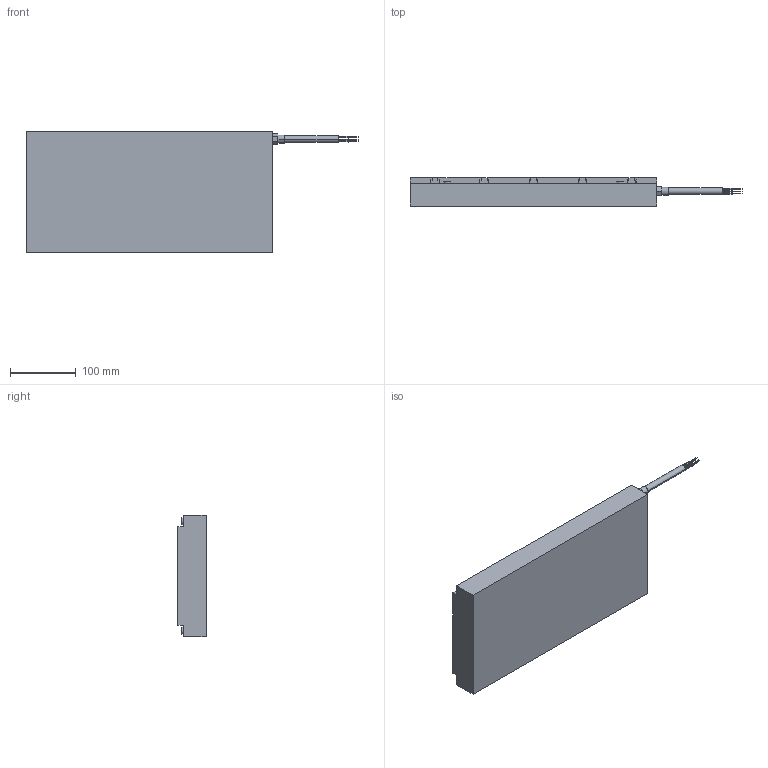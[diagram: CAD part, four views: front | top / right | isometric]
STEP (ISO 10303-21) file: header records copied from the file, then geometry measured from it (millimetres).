
FILE_DESCRIPTION((''),'2;1');
FILE_NAME('IC22_150','2010-03-09T',('brad.winesett'),('Kollmorgen'),'PRO/ENGINEER BY PARAMETRIC TECHNOLOGY CORPORATION, 2006510','PRO/ENGINEER BY PARAMETRIC TECHNOLOGY CORPORATION, 2006510','');
FILE_SCHEMA(('CONFIG_CONTROL_DESIGN'));
Length unit declared in the file: millimetre
Products named in the file (1): IC22_150
Bounding box: 506.2 x 43.3 x 185 mm (x, y, z)
Volume: 2908259.3 mm3; surface area: 228642.4 mm2
Topology: 1 solids, 26 shells, 347 faces, 864 edges, 551 vertices
Faces by surface type: plane 153, cylinder 144, cone 50
Entity records: 10058 total; most frequent: DIRECTION 1848, CARTESIAN_POINT 1713, ORIENTED_EDGE 1528, EDGE_CURVE 814, AXIS2_PLACEMENT_3D 686, VERTEX_POINT 551, VECTOR 476, LINE 476
